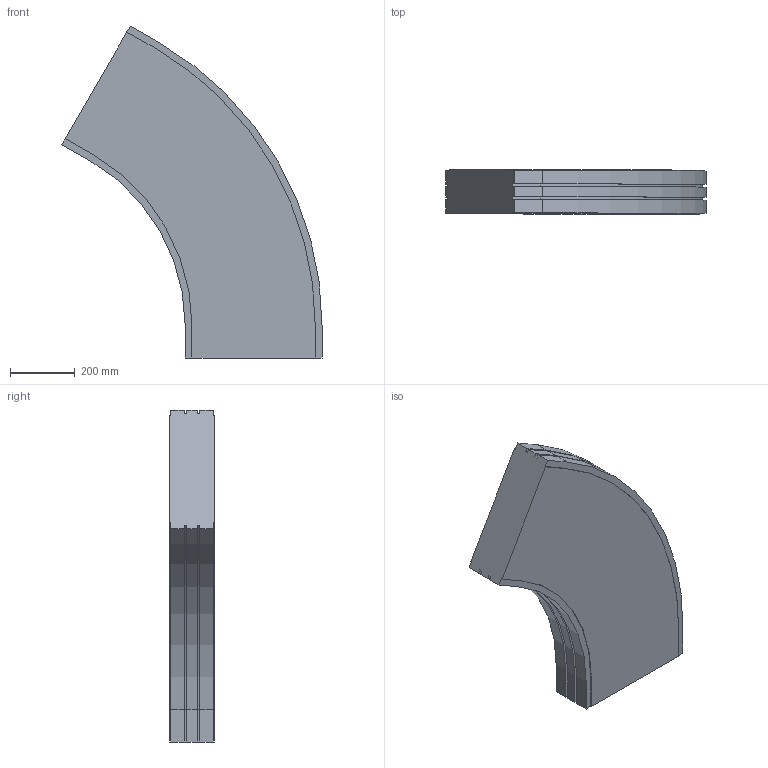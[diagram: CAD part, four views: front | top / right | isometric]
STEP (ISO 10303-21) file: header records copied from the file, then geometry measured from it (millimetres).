
FILE_DESCRIPTION (( 'STEP AP214' ), '1' );
FILE_NAME ('02.150H60.420.N FS-MTC-150 Bocht horizontaal 60°.STEP', '2013-03-29T11:16:48', ( 'Gebruiker' ), ( '' ), 'SwSTEP 2.0', 'SolidWorks 2012', '' );
FILE_SCHEMA (( 'AUTOMOTIVE_DESIGN' ));
Length unit declared in the file: millimetre
Products named in the file (1): 02.150H60.420.N FS-MTC-150 Bocht horizontaal 60°
Bounding box: 803.85 x 136 x 1025.98 mm (x, y, z)
Volume: 59094093.9 mm3; surface area: 1365424.2 mm2
Topology: 1 solids, 1 shells, 58 faces, 168 edges, 112 vertices
Faces by surface type: plane 44, cylinder 14
Entity records: 1934 total; most frequent: CARTESIAN_POINT 339, ORIENTED_EDGE 336, DIRECTION 314, EDGE_CURVE 168, LINE 140, VECTOR 140, VERTEX_POINT 112, AXIS2_PLACEMENT_3D 87
